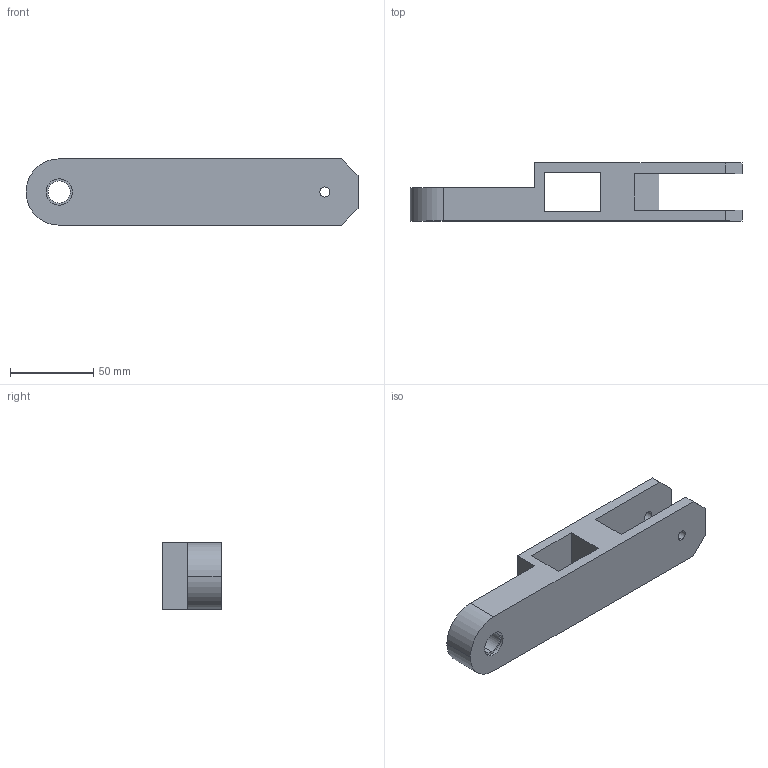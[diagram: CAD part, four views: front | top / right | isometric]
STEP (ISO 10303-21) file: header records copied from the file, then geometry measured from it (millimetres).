
FILE_DESCRIPTION (( 'STEP AP214' ), '1' );
FILE_NAME ('arm1.STEP', '2017-06-25T11:34:01', ( '' ), ( '' ), 'SwSTEP 2.0', 'SolidWorks 2016', '' );
FILE_SCHEMA (( 'AUTOMOTIVE_DESIGN' ));
Length unit declared in the file: millimetre
Products named in the file (1): arm1
Bounding box: 200 x 35 x 40 mm (x, y, z)
Volume: 146421.4 mm3; surface area: 35241.1 mm2
Topology: 1 solids, 1 shells, 47 faces, 117 edges, 78 vertices
Faces by surface type: plane 27, cylinder 20
Entity records: 1461 total; most frequent: DIRECTION 253, CARTESIAN_POINT 243, ORIENTED_EDGE 234, EDGE_CURVE 117, AXIS2_PLACEMENT_3D 88, VERTEX_POINT 78, LINE 77, VECTOR 77
